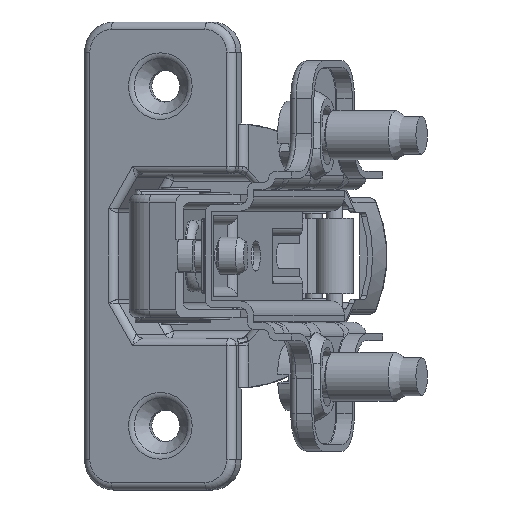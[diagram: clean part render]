
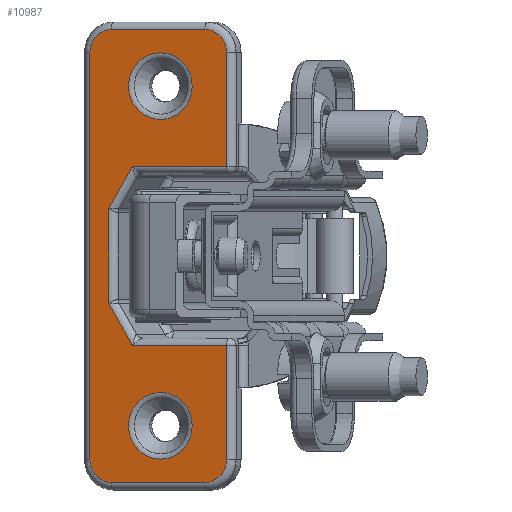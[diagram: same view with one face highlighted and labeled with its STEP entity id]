
A CAD part, left-side view. The second image highlights one B-rep face of the part: STEP entity #10987.
In plain terms, the highlighted planar face has unit normal (-0.953, 0.303, 0) as drawn and (0.393, 0.92, 0) by its records, which use the part's own axes.
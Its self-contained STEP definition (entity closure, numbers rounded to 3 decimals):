
#918=LINE('',#18906,#1713);
#919=LINE('',#18908,#1714);
#920=LINE('',#18910,#1715);
#921=LINE('',#18912,#1716);
#922=LINE('',#18914,#1717);
#923=LINE('',#18916,#1718);
#924=LINE('',#18918,#1719);
#925=LINE('',#18922,#1720);
#926=LINE('',#18926,#1721);
#927=LINE('',#18929,#1722);
#1713=VECTOR('',#14796,15.119);
#1714=VECTOR('',#14797,13.07);
#1715=VECTOR('',#14798,6.517);
#1716=VECTOR('',#14799,12.548);
#1717=VECTOR('',#14800,6.517);
#1718=VECTOR('',#14801,13.07);
#1719=VECTOR('',#14802,15.119);
#1720=VECTOR('',#14805,13.);
#1721=VECTOR('',#14808,54.);
#1722=VECTOR('',#14811,13.);
#2120=PLANE('',#12091);
#2266=FACE_BOUND('',#3430,.T.);
#2267=FACE_BOUND('',#3431,.T.);
#2705=FACE_OUTER_BOUND('',#3429,.T.);
#3429=EDGE_LOOP('',(#9039,#9040,#9041,#9042,#9043,#9044,#9045,#9046,#9047,
#9048,#9049,#9050,#9051,#9052));
#3430=EDGE_LOOP('',(#9053));
#3431=EDGE_LOOP('',(#9054));
#4190=CIRCLE('',#12090,4.414);
#4191=CIRCLE('',#12092,3.);
#4192=CIRCLE('',#12093,3.);
#4193=CIRCLE('',#12094,3.);
#4194=CIRCLE('',#12095,3.);
#4195=CIRCLE('',#12096,4.414);
#5095=VERTEX_POINT('',#18899);
#5096=VERTEX_POINT('',#18902);
#5097=VERTEX_POINT('',#18903);
#5098=VERTEX_POINT('',#18905);
#5099=VERTEX_POINT('',#18907);
#5100=VERTEX_POINT('',#18909);
#5101=VERTEX_POINT('',#18911);
#5102=VERTEX_POINT('',#18913);
#5103=VERTEX_POINT('',#18915);
#5104=VERTEX_POINT('',#18917);
#5105=VERTEX_POINT('',#18919);
#5106=VERTEX_POINT('',#18921);
#5107=VERTEX_POINT('',#18923);
#5108=VERTEX_POINT('',#18925);
#5109=VERTEX_POINT('',#18927);
#5110=VERTEX_POINT('',#18930);
#6464=EDGE_CURVE('',#5095,#5095,#4190,.T.);
#6465=EDGE_CURVE('',#5096,#5097,#4191,.T.);
#6466=EDGE_CURVE('',#5098,#5096,#918,.T.);
#6467=EDGE_CURVE('',#5099,#5098,#919,.T.);
#6468=EDGE_CURVE('',#5100,#5099,#920,.T.);
#6469=EDGE_CURVE('',#5101,#5100,#921,.T.);
#6470=EDGE_CURVE('',#5102,#5101,#922,.T.);
#6471=EDGE_CURVE('',#5103,#5102,#923,.T.);
#6472=EDGE_CURVE('',#5104,#5103,#924,.T.);
#6473=EDGE_CURVE('',#5105,#5104,#4192,.T.);
#6474=EDGE_CURVE('',#5106,#5105,#925,.T.);
#6475=EDGE_CURVE('',#5107,#5106,#4193,.T.);
#6476=EDGE_CURVE('',#5108,#5107,#926,.T.);
#6477=EDGE_CURVE('',#5109,#5108,#4194,.T.);
#6478=EDGE_CURVE('',#5097,#5109,#927,.T.);
#6479=EDGE_CURVE('',#5110,#5110,#4195,.T.);
#9039=ORIENTED_EDGE('',*,*,#6465,.F.);
#9040=ORIENTED_EDGE('',*,*,#6466,.F.);
#9041=ORIENTED_EDGE('',*,*,#6467,.F.);
#9042=ORIENTED_EDGE('',*,*,#6468,.F.);
#9043=ORIENTED_EDGE('',*,*,#6469,.F.);
#9044=ORIENTED_EDGE('',*,*,#6470,.F.);
#9045=ORIENTED_EDGE('',*,*,#6471,.F.);
#9046=ORIENTED_EDGE('',*,*,#6472,.F.);
#9047=ORIENTED_EDGE('',*,*,#6473,.F.);
#9048=ORIENTED_EDGE('',*,*,#6474,.F.);
#9049=ORIENTED_EDGE('',*,*,#6475,.F.);
#9050=ORIENTED_EDGE('',*,*,#6476,.F.);
#9051=ORIENTED_EDGE('',*,*,#6477,.F.);
#9052=ORIENTED_EDGE('',*,*,#6478,.F.);
#9053=ORIENTED_EDGE('',*,*,#6479,.F.);
#9054=ORIENTED_EDGE('',*,*,#6464,.F.);
#10987=ADVANCED_FACE('',(#2705,#2266,#2267),#2120,.T.);
#12090=AXIS2_PLACEMENT_3D('',#18900,#14790,#14791);
#12091=AXIS2_PLACEMENT_3D('',#18901,#14792,#14793);
#12092=AXIS2_PLACEMENT_3D('',#18904,#14794,#14795);
#12093=AXIS2_PLACEMENT_3D('',#18920,#14803,#14804);
#12094=AXIS2_PLACEMENT_3D('',#18924,#14806,#14807);
#12095=AXIS2_PLACEMENT_3D('',#18928,#14809,#14810);
#12096=AXIS2_PLACEMENT_3D('',#18931,#14812,#14813);
#14790=DIRECTION('center_axis',(0.393,0.92,0.));
#14791=DIRECTION('ref_axis',(-0.92,0.393,0.));
#14792=DIRECTION('center_axis',(0.393,0.92,0.));
#14793=DIRECTION('ref_axis',(-0.92,0.393,0.));
#14794=DIRECTION('center_axis',(-0.393,-0.92,0.));
#14795=DIRECTION('ref_axis',(-0.65,0.278,-0.707));
#14796=DIRECTION('',(0.,0.,-1.));
#14797=DIRECTION('',(-0.92,0.393,0.));
#14798=DIRECTION('',(-0.469,0.2,-0.86));
#14799=DIRECTION('',(0.,0.,-1.));
#14800=DIRECTION('',(0.469,-0.2,-0.86));
#14801=DIRECTION('',(0.92,-0.393,0.));
#14802=DIRECTION('',(0.,0.,-1.));
#14803=DIRECTION('center_axis',(-0.393,-0.92,0.));
#14804=DIRECTION('ref_axis',(-0.65,0.278,0.707));
#14805=DIRECTION('',(-0.92,0.393,0.));
#14806=DIRECTION('center_axis',(-0.393,-0.92,0.));
#14807=DIRECTION('ref_axis',(0.65,-0.278,0.707));
#14808=DIRECTION('',(0.,0.,1.));
#14809=DIRECTION('center_axis',(-0.393,-0.92,0.));
#14810=DIRECTION('ref_axis',(0.65,-0.278,-0.707));
#14811=DIRECTION('',(0.92,-0.393,0.));
#14812=DIRECTION('center_axis',(0.393,0.92,0.));
#14813=DIRECTION('ref_axis',(-0.92,0.393,0.));
#18899=CARTESIAN_POINT('',(42.537,-12.023,22.5));
#18900=CARTESIAN_POINT('Origin',(38.477,-10.29,22.5));
#18901=CARTESIAN_POINT('Origin',(48.41,-14.53,0.));
#18902=CARTESIAN_POINT('',(30.016,-6.678,-27.));
#18903=CARTESIAN_POINT('',(32.775,-7.856,-30.));
#18904=CARTESIAN_POINT('Origin',(32.775,-7.856,-27.));
#18905=CARTESIAN_POINT('',(30.016,-6.678,-11.881));
#18906=CARTESIAN_POINT('',(30.016,-6.678,0.));
#18907=CARTESIAN_POINT('',(42.037,-11.809,-11.881));
#18908=CARTESIAN_POINT('',(38.753,-10.408,-11.881));
#18909=CARTESIAN_POINT('',(45.092,-13.113,-6.274));
#18910=CARTESIAN_POINT('',(45.394,-13.242,-5.719));
#18911=CARTESIAN_POINT('',(45.092,-13.113,6.274));
#18912=CARTESIAN_POINT('',(45.092,-13.113,-3.));
#18913=CARTESIAN_POINT('',(42.037,-11.809,11.881));
#18914=CARTESIAN_POINT('',(46.724,-13.81,3.279));
#18915=CARTESIAN_POINT('',(30.016,-6.678,11.881));
#18916=CARTESIAN_POINT('',(44.961,-13.057,11.881));
#18917=CARTESIAN_POINT('',(30.016,-6.678,27.));
#18918=CARTESIAN_POINT('',(30.016,-6.678,0.));
#18919=CARTESIAN_POINT('',(32.775,-7.856,30.));
#18920=CARTESIAN_POINT('Origin',(32.775,-7.856,27.));
#18921=CARTESIAN_POINT('',(44.731,-12.959,30.));
#18922=CARTESIAN_POINT('',(39.755,-10.835,30.));
#18923=CARTESIAN_POINT('',(47.491,-14.137,27.));
#18924=CARTESIAN_POINT('Origin',(44.731,-12.959,27.));
#18925=CARTESIAN_POINT('',(47.491,-14.137,-27.));
#18926=CARTESIAN_POINT('',(47.491,-14.137,0.));
#18927=CARTESIAN_POINT('',(44.731,-12.959,-30.));
#18928=CARTESIAN_POINT('Origin',(44.731,-12.959,-27.));
#18929=CARTESIAN_POINT('',(39.755,-10.835,-30.));
#18930=CARTESIAN_POINT('',(42.537,-12.023,-22.5));
#18931=CARTESIAN_POINT('Origin',(38.477,-10.29,-22.5));
